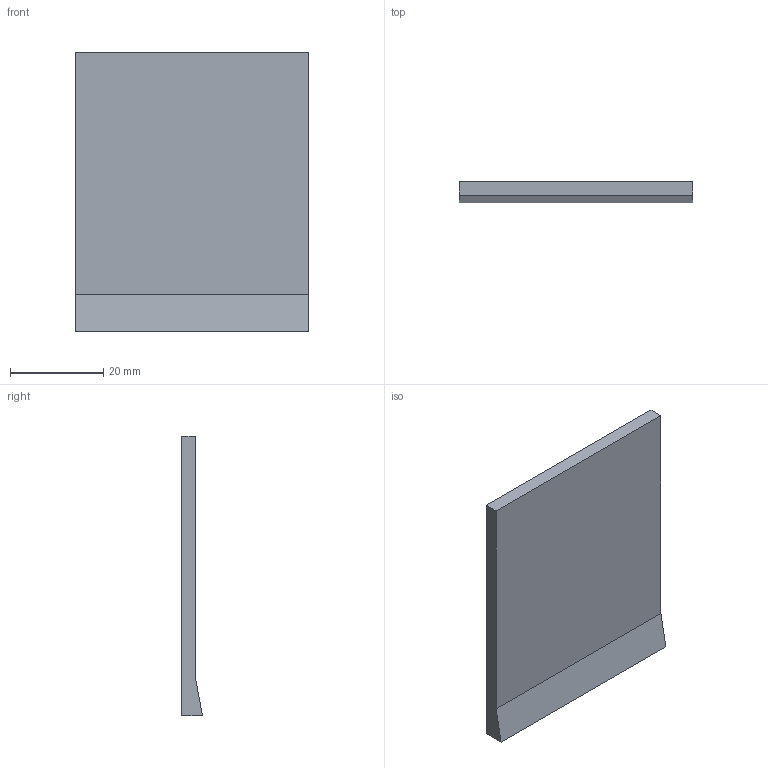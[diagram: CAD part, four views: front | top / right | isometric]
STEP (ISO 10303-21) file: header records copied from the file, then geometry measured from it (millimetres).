
FILE_DESCRIPTION(('Open CASCADE Model'),'2;1');
FILE_NAME('Open CASCADE Shape Model','2026-10-16T00:24:50',('Author'),( 'Open CASCADE'),'Open CASCADE STEP processor 7.9','Open CASCADE 7.9' ,'Unknown');
FILE_SCHEMA(('AUTOMOTIVE_DESIGN { 1 0 10303 214 1 1 1 1 }'));
Length unit declared in the file: millimetre
Products named in the file (1): Open CASCADE STEP translator 7.9 16
Bounding box: 50 x 4.5 x 60 mm (x, y, z)
Volume: 9300 mm3; surface area: 6754 mm2
Topology: 1 solids, 1 shells, 7 faces, 15 edges, 10 vertices
Faces by surface type: plane 7
Entity records: 394 total; most frequent: CARTESIAN_POINT 63, DIRECTION 61, LINE 45, VECTOR 45, ORIENTED_EDGE 30, PCURVE 30, DEFINITIONAL_REPRESENTATION 30, EDGE_CURVE 15
